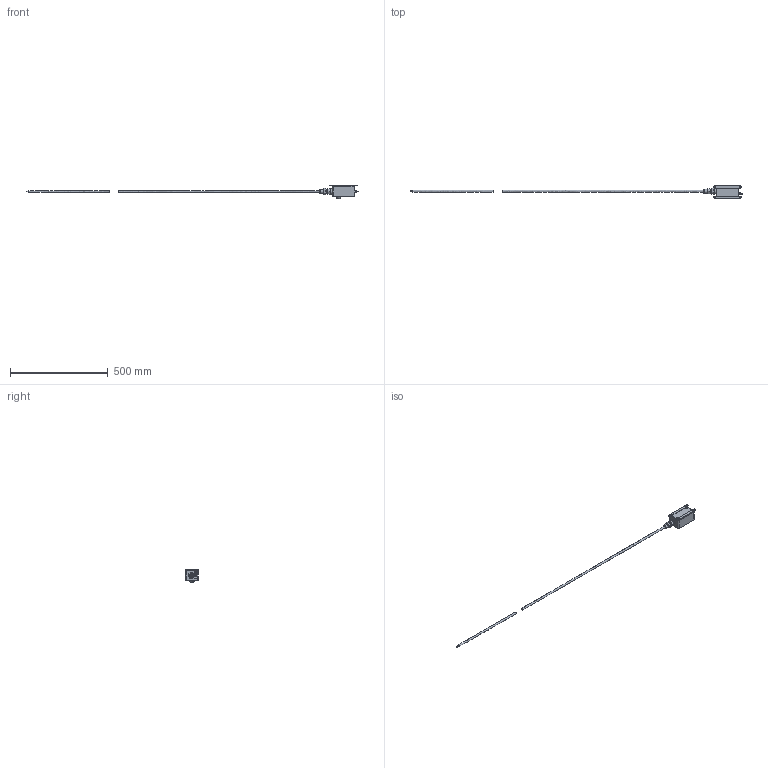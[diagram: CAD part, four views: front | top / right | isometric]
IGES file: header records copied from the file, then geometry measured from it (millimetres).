
Bounding box: 1700 x 66.1 x 69 mm (x, y, z)
Surface area: 148105.5 mm2 (no closed solid volume)
Topology: 0 solids, 0 shells, 853 faces, 5703 edges, 5538 vertices
Faces by surface type: bspline 554, revolution 299
